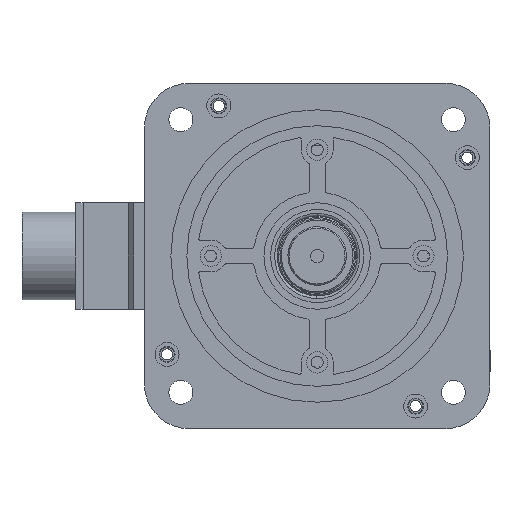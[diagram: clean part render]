
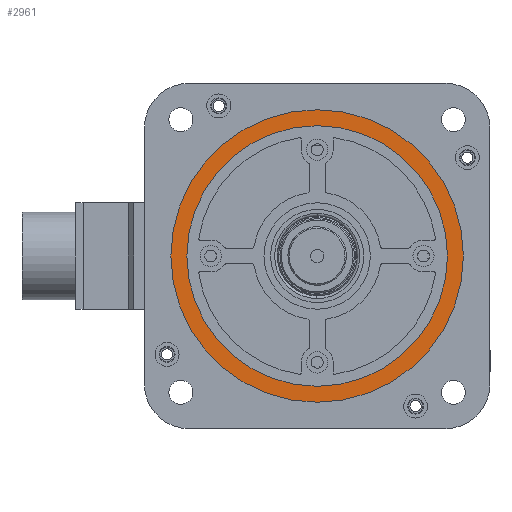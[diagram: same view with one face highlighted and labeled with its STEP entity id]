
A CAD part, left-side view. The second image highlights one B-rep face of the part: STEP entity #2961.
In plain terms, the highlighted planar face has unit normal (-1, 0, 0).
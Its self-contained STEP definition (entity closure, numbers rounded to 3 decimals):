
#116 = ORIENTED_EDGE ( 'NONE', *, *, #2244, .T. ) ;
#578 = CARTESIAN_POINT ( 'NONE',  ( -99.582, 0., 0. ) ) ;
#844 = EDGE_CURVE ( 'NONE', #15676, #2046, #5531, .T. ) ;
#935 = CIRCLE ( 'NONE', #3458, 55. ) ;
#1060 = ORIENTED_EDGE ( 'NONE', *, *, #9522, .T. ) ;
#1217 = CARTESIAN_POINT ( 'NONE',  ( -99.582, 0., -49. ) ) ;
#2046 = VERTEX_POINT ( 'NONE', #1217 ) ;
#2244 = EDGE_CURVE ( 'NONE', #15116, #13791, #935, .T. ) ;
#2961 = ADVANCED_FACE ( 'NONE', ( #16818, #18349 ), #3941, .F. ) ;
#3458 = AXIS2_PLACEMENT_3D ( 'NONE', #578, #15021, #19878 ) ;
#3941 = PLANE ( 'NONE',  #4943 ) ;
#4286 = AXIS2_PLACEMENT_3D ( 'NONE', #13496, #8778, #15224 ) ;
#4578 = CIRCLE ( 'NONE', #4286, 49. ) ;
#4943 = AXIS2_PLACEMENT_3D ( 'NONE', #10512, #13554, #15275 ) ;
#5114 = CIRCLE ( 'NONE', #17190, 55. ) ;
#5531 = CIRCLE ( 'NONE', #7311, 49. ) ;
#7311 = AXIS2_PLACEMENT_3D ( 'NONE', #8428, #16554, #15005 ) ;
#7852 = CARTESIAN_POINT ( 'NONE',  ( -99.582, 0., 55. ) ) ;
#8281 = EDGE_LOOP ( 'NONE', ( #1060, #116 ) ) ;
#8428 = CARTESIAN_POINT ( 'NONE',  ( -99.582, 0., 0. ) ) ;
#8778 = DIRECTION ( 'NONE',  ( -1., 0., 0. ) ) ;
#9522 = EDGE_CURVE ( 'NONE', #13791, #15116, #5114, .T. ) ;
#10016 = CARTESIAN_POINT ( 'NONE',  ( -99.582, 0., -55. ) ) ;
#10512 = CARTESIAN_POINT ( 'NONE',  ( -99.582, 0., 0. ) ) ;
#10708 = ORIENTED_EDGE ( 'NONE', *, *, #844, .F. ) ;
#10861 = ORIENTED_EDGE ( 'NONE', *, *, #18924, .F. ) ;
#11278 = CARTESIAN_POINT ( 'NONE',  ( -99.582, 0., 49. ) ) ;
#11818 = EDGE_LOOP ( 'NONE', ( #10861, #10708 ) ) ;
#13105 = DIRECTION ( 'NONE',  ( 0., 0., -1. ) ) ;
#13496 = CARTESIAN_POINT ( 'NONE',  ( -99.582, 0., 0. ) ) ;
#13554 = DIRECTION ( 'NONE',  ( 1., 0., 0. ) ) ;
#13791 = VERTEX_POINT ( 'NONE', #10016 ) ;
#15005 = DIRECTION ( 'NONE',  ( 0., 0., -1. ) ) ;
#15021 = DIRECTION ( 'NONE',  ( -1., 0., 0. ) ) ;
#15116 = VERTEX_POINT ( 'NONE', #7852 ) ;
#15224 = DIRECTION ( 'NONE',  ( 0., 0., -1. ) ) ;
#15275 = DIRECTION ( 'NONE',  ( 0., 0., 1. ) ) ;
#15676 = VERTEX_POINT ( 'NONE', #11278 ) ;
#16006 = DIRECTION ( 'NONE',  ( -1., 0., 0. ) ) ;
#16554 = DIRECTION ( 'NONE',  ( -1., 0., 0. ) ) ;
#16818 = FACE_BOUND ( 'NONE', #11818, .T. ) ;
#17190 = AXIS2_PLACEMENT_3D ( 'NONE', #17564, #16006, #13105 ) ;
#17564 = CARTESIAN_POINT ( 'NONE',  ( -99.582, 0., 0. ) ) ;
#18349 = FACE_OUTER_BOUND ( 'NONE', #8281, .T. ) ;
#18924 = EDGE_CURVE ( 'NONE', #2046, #15676, #4578, .T. ) ;
#19878 = DIRECTION ( 'NONE',  ( 0., 0., -1. ) ) ;
